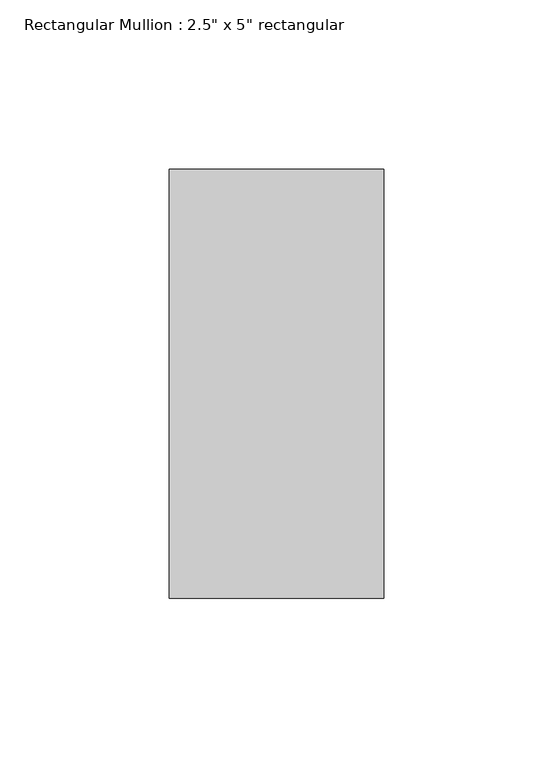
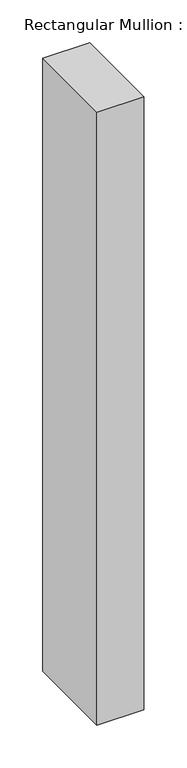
"""IFC4 building model written with IfcOpenShell, lengths in millimetres: member geometry."""

from ifc_helpers import new_model, si_unit, frame, origin, place, context, project, spatial, polyline, outline, extrude, source, transform, mapped, element, save


def member_99b0d556(model_context):
    return source(origin(), model_context, "Body", "SweptSolid", [
        extrude(outline(polyline([(0.0, 63.5), (0.0, -63.5), (-63.5, -63.5), (-63.5, 63.5), (0.0, 63.5)])), frame((0.0, 0.0, -876.3), z_axis=(0.0, 0.0, 1.0), x_axis=(1.0, 0.0, 0.0)), (0.0, 0.0, 1.0), 876.3),
    ])


if __name__ == "__main__":
    model = new_model("IFC4")
    model_context = context("Model", 3, world=origin())
    ifc_project = project(units=[si_unit("LENGTHUNIT", "METRE", prefix="MILLI")], contexts=[model_context])
    site = spatial("IfcSite", under=ifc_project)
    building = spatial("IfcBuilding", under=site)
    placement = place(None, origin())
    member_shape = member_99b0d556(model_context)
    element("IfcMember", 1, ObjectType="Rectangular Mullion : 2.5\" x 5\" rectangular", at=placement, inside=building, context=model_context, shape_type="MappedRepresentation", body=[
        mapped(member_shape, transform((0.0, 0.0, 0.0), x_axis=(1.0, 0.0, 0.0), y_axis=(0.0, 1.0, 0.0), z_axis=(0.0, 0.0, 1.0))),
    ])
    save(model, "model.ifc")
